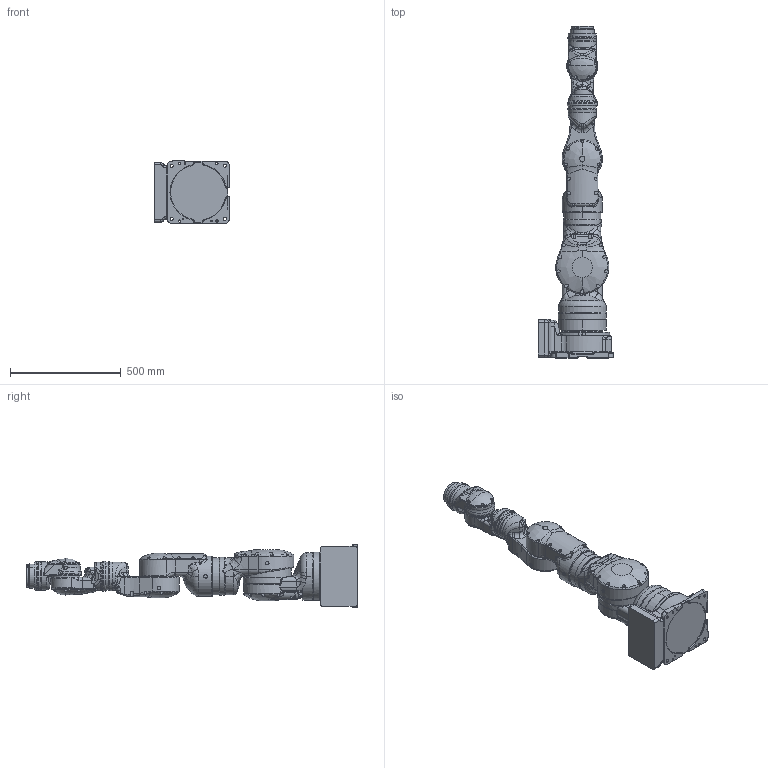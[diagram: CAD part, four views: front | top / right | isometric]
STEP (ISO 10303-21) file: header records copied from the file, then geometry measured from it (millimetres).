
FILE_DESCRIPTION(/* description */ (''),/* implementation_level */ '2;1');
FILE_NAME(/* name */ 'SIA20D-fertig',/* time_stamp */ '2010-08-06T09:08:05+02:00',/* author */ (''),/* organization */ (''),/* preprocessor_version */ 'ST-DEVELOPER v9',/* originating_system */ 'UGS - NX 4.0',/* authorisation */ '');
FILE_SCHEMA (('AUTOMOTIVE_DESIGN { 1 0 10303 214 1 1 1 1 }'));
Products named in the file (1): Mart354Dptxz
Bounding box: 343 x 1500 x 283 mm (x, y, z)
Volume: 43110201.4 mm3; surface area: 1696384.7 mm2
Topology: 8 solids, 8 shells, 1841 faces, 4689 edges, 2907 vertices
Faces by surface type: cylinder 574, bspline 549, plane 492, torus 162, cone 54, sphere 10
Entity records: 96972 total; most frequent: CARTESIAN_POINT 56825, ORIENTED_EDGE 9370, DIRECTION 7263, EDGE_CURVE 4685, AXIS2_PLACEMENT_3D 2987, VERTEX_POINT 2907, EDGE_LOOP 1950, ADVANCED_FACE 1841
